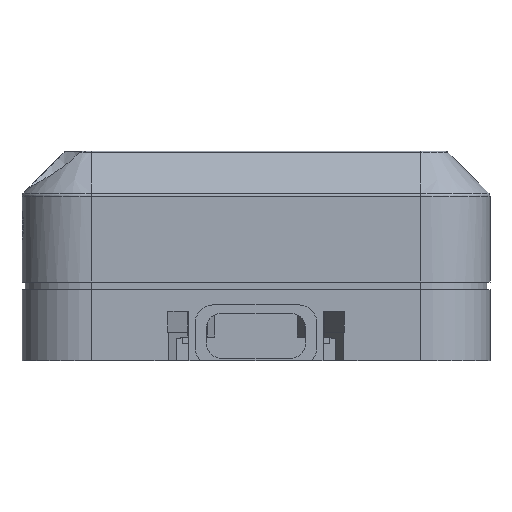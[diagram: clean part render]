
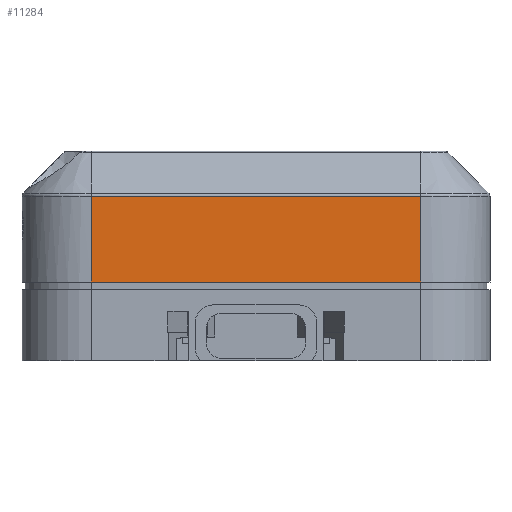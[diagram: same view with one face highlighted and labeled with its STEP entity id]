
A CAD part, front view. The second image highlights one B-rep face of the part: STEP entity #11284.
In plain terms, the highlighted planar face has unit normal (0, -1, 0).
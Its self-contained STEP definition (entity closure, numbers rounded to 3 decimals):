
#2915 = CYLINDRICAL_SURFACE('',#2916,0.5);
#2916 = AXIS2_PLACEMENT_3D('',#2917,#2918,#2919);
#2917 = CARTESIAN_POINT('',(19.,-23.5,21.393));
#2918 = DIRECTION('',(-1.,-0.,-0.));
#2919 = DIRECTION('',(0.,-1.,0.));
#3387 = VERTEX_POINT('',#3388);
#3388 = CARTESIAN_POINT('',(-19.,-24.,21.393));
#3406 = CYLINDRICAL_SURFACE('',#3407,8.);
#3407 = AXIS2_PLACEMENT_3D('',#3408,#3409,#3410);
#3408 = CARTESIAN_POINT('',(-19.,-16.,2.4));
#3409 = DIRECTION('',(0.,0.,1.));
#3410 = DIRECTION('',(-1.,-0.,0.));
#4178 = VERTEX_POINT('',#4179);
#4179 = CARTESIAN_POINT('',(19.,-24.,21.393));
#4220 = CYLINDRICAL_SURFACE('',#4221,8.);
#4221 = AXIS2_PLACEMENT_3D('',#4222,#4223,#4224);
#4222 = CARTESIAN_POINT('',(19.,-16.,2.4));
#4223 = DIRECTION('',(0.,0.,1.));
#4224 = DIRECTION('',(1.,0.,-0.));
#4243 = EDGE_CURVE('',#4178,#3387,#4244,.T.);
#4244 = SURFACE_CURVE('',#4245,(#4249,#4256),.PCURVE_S1.);
#4245 = LINE('',#4246,#4247);
#4246 = CARTESIAN_POINT('',(19.,-24.,21.393));
#4247 = VECTOR('',#4248,1.);
#4248 = DIRECTION('',(-1.,-0.,-0.));
#4249 = PCURVE('',#2915,#4250);
#4250 = DEFINITIONAL_REPRESENTATION('',(#4251),#4255);
#4251 = LINE('',#4252,#4253);
#4252 = CARTESIAN_POINT('',(0.,0.));
#4253 = VECTOR('',#4254,1.);
#4254 = DIRECTION('',(0.,1.));
#4255 = ( GEOMETRIC_REPRESENTATION_CONTEXT(2) 
PARAMETRIC_REPRESENTATION_CONTEXT() REPRESENTATION_CONTEXT('2D SPACE',''
  ) );
#4256 = PCURVE('',#4257,#4262);
#4257 = PLANE('',#4258);
#4258 = AXIS2_PLACEMENT_3D('',#4259,#4260,#4261);
#4259 = CARTESIAN_POINT('',(-27.,-24.,2.4));
#4260 = DIRECTION('',(0.,1.,0.));
#4261 = DIRECTION('',(0.,0.,1.));
#4262 = DEFINITIONAL_REPRESENTATION('',(#4263),#4267);
#4263 = LINE('',#4264,#4265);
#4264 = CARTESIAN_POINT('',(18.993,46.));
#4265 = VECTOR('',#4266,1.);
#4266 = DIRECTION('',(0.,-1.));
#4267 = ( GEOMETRIC_REPRESENTATION_CONTEXT(2) 
PARAMETRIC_REPRESENTATION_CONTEXT() REPRESENTATION_CONTEXT('2D SPACE',''
  ) );
#4713 = VERTEX_POINT('',#4714);
#4714 = CARTESIAN_POINT('',(-19.,-24.,11.5));
#4729 = PLANE('',#4730);
#4730 = AXIS2_PLACEMENT_3D('',#4731,#4732,#4733);
#4731 = CARTESIAN_POINT('',(-27.5,-24.5,11.5));
#4732 = DIRECTION('',(0.,0.,1.));
#4733 = DIRECTION('',(1.,0.,0.));
#4741 = EDGE_CURVE('',#4713,#3387,#4742,.T.);
#4742 = SURFACE_CURVE('',#4743,(#4747,#4754),.PCURVE_S1.);
#4743 = LINE('',#4744,#4745);
#4744 = CARTESIAN_POINT('',(-19.,-24.,2.4));
#4745 = VECTOR('',#4746,1.);
#4746 = DIRECTION('',(0.,0.,1.));
#4747 = PCURVE('',#3406,#4748);
#4748 = DEFINITIONAL_REPRESENTATION('',(#4749),#4753);
#4749 = LINE('',#4750,#4751);
#4750 = CARTESIAN_POINT('',(1.571,0.));
#4751 = VECTOR('',#4752,1.);
#4752 = DIRECTION('',(0.,1.));
#4753 = ( GEOMETRIC_REPRESENTATION_CONTEXT(2) 
PARAMETRIC_REPRESENTATION_CONTEXT() REPRESENTATION_CONTEXT('2D SPACE',''
  ) );
#4754 = PCURVE('',#4257,#4755);
#4755 = DEFINITIONAL_REPRESENTATION('',(#4756),#4760);
#4756 = LINE('',#4757,#4758);
#4757 = CARTESIAN_POINT('',(0.,8.));
#4758 = VECTOR('',#4759,1.);
#4759 = DIRECTION('',(1.,0.));
#4760 = ( GEOMETRIC_REPRESENTATION_CONTEXT(2) 
PARAMETRIC_REPRESENTATION_CONTEXT() REPRESENTATION_CONTEXT('2D SPACE',''
  ) );
#11240 = VERTEX_POINT('',#11241);
#11241 = CARTESIAN_POINT('',(19.,-24.,11.5));
#11263 = EDGE_CURVE('',#11240,#4178,#11264,.T.);
#11264 = SURFACE_CURVE('',#11265,(#11269,#11276),.PCURVE_S1.);
#11265 = LINE('',#11266,#11267);
#11266 = CARTESIAN_POINT('',(19.,-24.,2.4));
#11267 = VECTOR('',#11268,1.);
#11268 = DIRECTION('',(0.,0.,1.));
#11269 = PCURVE('',#4220,#11270);
#11270 = DEFINITIONAL_REPRESENTATION('',(#11271),#11275);
#11271 = LINE('',#11272,#11273);
#11272 = CARTESIAN_POINT('',(-1.571,0.));
#11273 = VECTOR('',#11274,1.);
#11274 = DIRECTION('',(-0.,1.));
#11275 = ( GEOMETRIC_REPRESENTATION_CONTEXT(2) 
PARAMETRIC_REPRESENTATION_CONTEXT() REPRESENTATION_CONTEXT('2D SPACE',''
  ) );
#11276 = PCURVE('',#4257,#11277);
#11277 = DEFINITIONAL_REPRESENTATION('',(#11278),#11282);
#11278 = LINE('',#11279,#11280);
#11279 = CARTESIAN_POINT('',(0.,46.));
#11280 = VECTOR('',#11281,1.);
#11281 = DIRECTION('',(1.,0.));
#11282 = ( GEOMETRIC_REPRESENTATION_CONTEXT(2) 
PARAMETRIC_REPRESENTATION_CONTEXT() REPRESENTATION_CONTEXT('2D SPACE',''
  ) );
#11284 = ADVANCED_FACE('',(#11285),#4257,.F.);
#11285 = FACE_BOUND('',#11286,.F.);
#11286 = EDGE_LOOP('',(#11287,#11306,#11307,#11308));
#11287 = ORIENTED_EDGE('',*,*,#11288,.F.);
#11288 = EDGE_CURVE('',#4713,#11240,#11289,.T.);
#11289 = SURFACE_CURVE('',#11290,(#11294,#11300),.PCURVE_S1.);
#11290 = LINE('',#11291,#11292);
#11291 = CARTESIAN_POINT('',(-27.25,-24.,11.5));
#11292 = VECTOR('',#11293,1.);
#11293 = DIRECTION('',(1.,0.,0.));
#11294 = PCURVE('',#4257,#11295);
#11295 = DEFINITIONAL_REPRESENTATION('',(#11296),#11299);
#11296 = B_SPLINE_CURVE_WITH_KNOTS('',1,(#11297,#11298),.UNSPECIFIED.,
  .F.,.F.,(2,2),(8.25,46.25),.PIECEWISE_BEZIER_KNOTS.);
#11297 = CARTESIAN_POINT('',(9.1,8.));
#11298 = CARTESIAN_POINT('',(9.1,46.));
#11299 = ( GEOMETRIC_REPRESENTATION_CONTEXT(2) 
PARAMETRIC_REPRESENTATION_CONTEXT() REPRESENTATION_CONTEXT('2D SPACE',''
  ) );
#11300 = PCURVE('',#4729,#11301);
#11301 = DEFINITIONAL_REPRESENTATION('',(#11302),#11305);
#11302 = B_SPLINE_CURVE_WITH_KNOTS('',1,(#11303,#11304),.UNSPECIFIED.,
  .F.,.F.,(2,2),(8.25,46.25),.PIECEWISE_BEZIER_KNOTS.);
#11303 = CARTESIAN_POINT('',(8.5,0.5));
#11304 = CARTESIAN_POINT('',(46.5,0.5));
#11305 = ( GEOMETRIC_REPRESENTATION_CONTEXT(2) 
PARAMETRIC_REPRESENTATION_CONTEXT() REPRESENTATION_CONTEXT('2D SPACE',''
  ) );
#11306 = ORIENTED_EDGE('',*,*,#4741,.T.);
#11307 = ORIENTED_EDGE('',*,*,#4243,.F.);
#11308 = ORIENTED_EDGE('',*,*,#11263,.F.);
